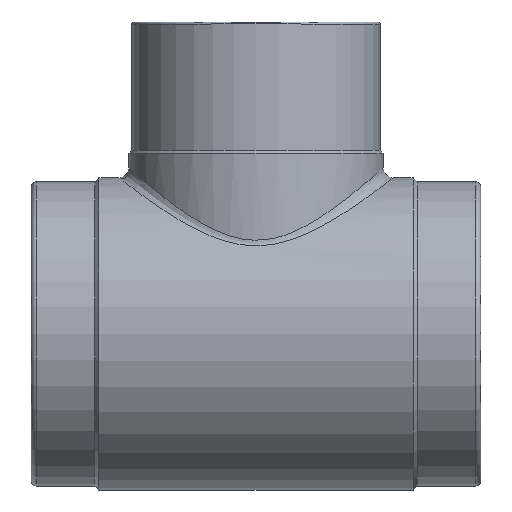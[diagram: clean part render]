
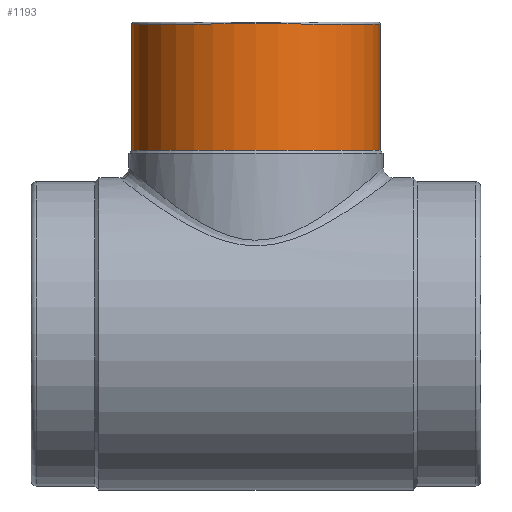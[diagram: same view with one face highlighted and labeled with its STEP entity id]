
A CAD part, top view. The second image highlights one B-rep face of the part: STEP entity #1193.
In plain terms, the highlighted cylindrical face has radius 125 mm (diameter 250 mm), a partial arc.
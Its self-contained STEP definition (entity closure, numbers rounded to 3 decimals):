
#27 = ORIENTED_EDGE ( 'NONE', *, *, #2452, .T. ) ;
#95 = CARTESIAN_POINT ( 'NONE',  ( 0., 184.5, 0. ) ) ;
#231 = EDGE_LOOP ( 'NONE', ( #27, #515, #3637, #2405 ) ) ;
#266 = DIRECTION ( 'NONE',  ( 0., 1., 0. ) ) ;
#402 = FACE_OUTER_BOUND ( 'NONE', #231, .T. ) ;
#515 = ORIENTED_EDGE ( 'NONE', *, *, #789, .T. ) ;
#545 = CIRCLE ( 'NONE', #1039, 125. ) ;
#546 = LINE ( 'NONE', #1744, #3110 ) ;
#692 = CARTESIAN_POINT ( 'NONE',  ( 0., 262.5, 0. ) ) ;
#789 = EDGE_CURVE ( 'NONE', #1730, #2740, #1059, .T. ) ;
#920 = VERTEX_POINT ( 'NONE', #1113 ) ;
#966 = AXIS2_PLACEMENT_3D ( 'NONE', #692, #3628, #1835 ) ;
#992 = DIRECTION ( 'NONE',  ( 0., 1., 0. ) ) ;
#1039 = AXIS2_PLACEMENT_3D ( 'NONE', #2729, #1328, #2148 ) ;
#1046 = DIRECTION ( 'NONE',  ( -1., 0., 0. ) ) ;
#1059 = LINE ( 'NONE', #1986, #1735 ) ;
#1113 = CARTESIAN_POINT ( 'NONE',  ( -125., 184.5, 0. ) ) ;
#1155 = EDGE_CURVE ( 'NONE', #3471, #2740, #545, .T. ) ;
#1193 = ADVANCED_FACE ( 'NONE', ( #402 ), #2436, .T. ) ;
#1328 = DIRECTION ( 'NONE',  ( 0., 1., 0. ) ) ;
#1730 = VERTEX_POINT ( 'NONE', #1998 ) ;
#1735 = VECTOR ( 'NONE', #992, 1000. ) ;
#1744 = CARTESIAN_POINT ( 'NONE',  ( -125., 262.5, 0. ) ) ;
#1835 = DIRECTION ( 'NONE',  ( -1., 0., 0. ) ) ;
#1961 = CARTESIAN_POINT ( 'NONE',  ( -125., 311.5, 0. ) ) ;
#1986 = CARTESIAN_POINT ( 'NONE',  ( 125., 262.5, 0. ) ) ;
#1998 = CARTESIAN_POINT ( 'NONE',  ( 125., 184.5, 0. ) ) ;
#2148 = DIRECTION ( 'NONE',  ( -1., 0., 0. ) ) ;
#2405 = ORIENTED_EDGE ( 'NONE', *, *, #2710, .F. ) ;
#2421 = CIRCLE ( 'NONE', #2626, 125. ) ;
#2436 = CYLINDRICAL_SURFACE ( 'NONE', #966, 125. ) ;
#2452 = EDGE_CURVE ( 'NONE', #920, #1730, #2421, .T. ) ;
#2626 = AXIS2_PLACEMENT_3D ( 'NONE', #95, #3705, #1046 ) ;
#2710 = EDGE_CURVE ( 'NONE', #920, #3471, #546, .T. ) ;
#2729 = CARTESIAN_POINT ( 'NONE',  ( 0., 311.5, 0. ) ) ;
#2740 = VERTEX_POINT ( 'NONE', #3274 ) ;
#3110 = VECTOR ( 'NONE', #266, 1000. ) ;
#3274 = CARTESIAN_POINT ( 'NONE',  ( 125., 311.5, 0. ) ) ;
#3471 = VERTEX_POINT ( 'NONE', #1961 ) ;
#3628 = DIRECTION ( 'NONE',  ( 0., 1., 0. ) ) ;
#3637 = ORIENTED_EDGE ( 'NONE', *, *, #1155, .F. ) ;
#3705 = DIRECTION ( 'NONE',  ( 0., 1., 0. ) ) ;
